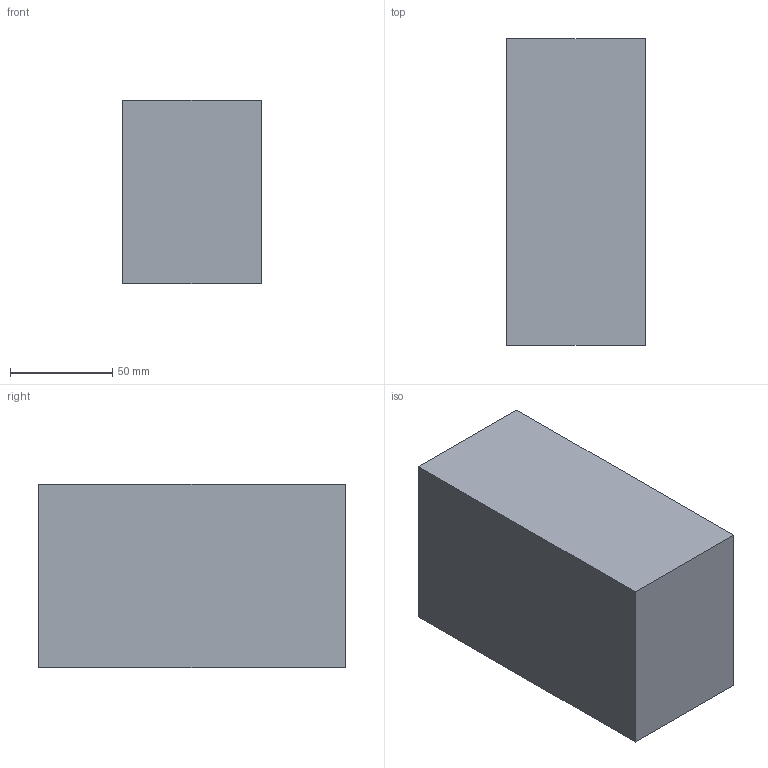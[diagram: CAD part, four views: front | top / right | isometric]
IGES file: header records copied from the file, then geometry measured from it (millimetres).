
Start section: SolidWorks IGES file using analytic representation for surfaces
Global section: file name: C:\Users\danielet\Desktop\3D CARLOS\OKRA-A2014-3D\OKRA-A2014-3D.IGS; native system: SolidWorks 2018; preprocessor: SolidWorks 2018; author: danielet; date: 220111.092605; units: millimetre
Bounding box: 68 x 150 x 90 mm (x, y, z)
Surface area: 96275.7 mm2 (no closed solid volume)
Topology: 0 solids, 0 shells, 16 faces, 432 edges, 432 vertices
Faces by surface type: bspline 10, revolution 6
